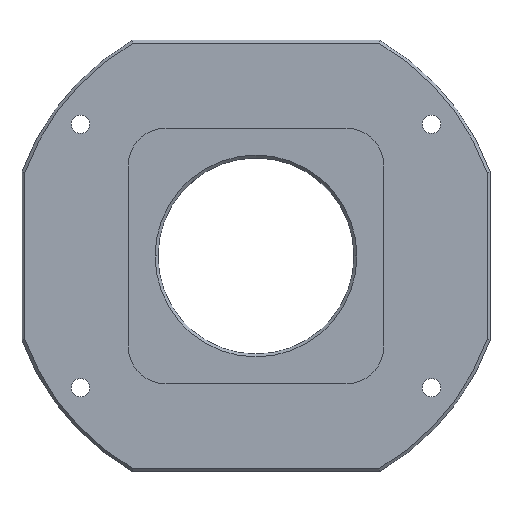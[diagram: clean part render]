
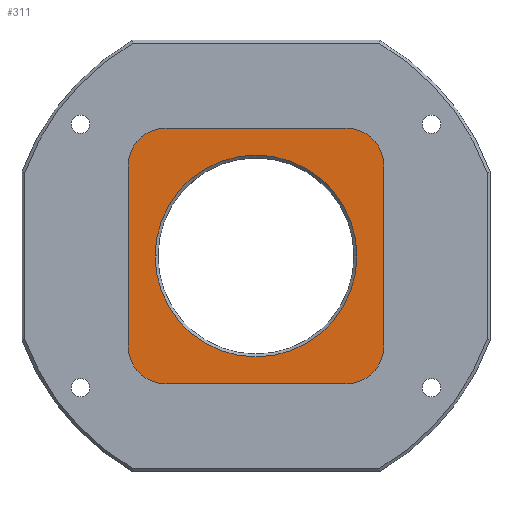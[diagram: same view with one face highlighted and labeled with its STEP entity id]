
A CAD part, top view. The second image highlights one B-rep face of the part: STEP entity #311.
In plain terms, the highlighted planar face has unit normal (0, 0, 1).
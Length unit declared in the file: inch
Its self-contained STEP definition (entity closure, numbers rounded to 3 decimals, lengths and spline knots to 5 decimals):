
#12 = DIRECTION ( 'NONE',  ( 0., 0., 1. ) ) ;
#15 = ORIENTED_EDGE ( 'NONE', *, *, #1397, .T. ) ;
#16 = CARTESIAN_POINT ( 'NONE',  ( -0.615, -0.875, -0.02 ) ) ;
#83 = CARTESIAN_POINT ( 'NONE',  ( 0., 0., -0.02 ) ) ;
#100 = ORIENTED_EDGE ( 'NONE', *, *, #1365, .T. ) ;
#103 = DIRECTION ( 'NONE',  ( -1., 0., 0. ) ) ;
#144 = ORIENTED_EDGE ( 'NONE', *, *, #1120, .T. ) ;
#152 = AXIS2_PLACEMENT_3D ( 'NONE', #1492, #1040, #103 ) ;
#168 = CARTESIAN_POINT ( 'NONE',  ( -0.615, -0.875, -0.02 ) ) ;
#182 = CIRCLE ( 'NONE', #152, 0.26 ) ;
#277 = CARTESIAN_POINT ( 'NONE',  ( -0.875, 0.615, -0.02 ) ) ;
#280 = LINE ( 'NONE', #1530, #886 ) ;
#310 = DIRECTION ( 'NONE',  ( -1., 0., 0. ) ) ;
#311 = ADVANCED_FACE ( 'NONE', ( #451, #916 ), #1069, .F. ) ;
#319 = LINE ( 'NONE', #510, #1990 ) ;
#323 = DIRECTION ( 'NONE',  ( 0., -1., 0. ) ) ;
#354 = DIRECTION ( 'NONE',  ( 0., 0., 1. ) ) ;
#378 = CARTESIAN_POINT ( 'NONE',  ( 0.69, 0., -0.02 ) ) ;
#381 = ORIENTED_EDGE ( 'NONE', *, *, #1975, .T. ) ;
#437 = DIRECTION ( 'NONE',  ( -1., 0., 0. ) ) ;
#445 = CARTESIAN_POINT ( 'NONE',  ( -0.875, -0.615, -0.02 ) ) ;
#451 = FACE_OUTER_BOUND ( 'NONE', #1688, .T. ) ;
#465 = CARTESIAN_POINT ( 'NONE',  ( -0.615, 0.875, -0.02 ) ) ;
#492 = EDGE_CURVE ( 'NONE', #722, #1577, #1398, .T. ) ;
#510 = CARTESIAN_POINT ( 'NONE',  ( 0.875, -0.615, -0.02 ) ) ;
#528 = VERTEX_POINT ( 'NONE', #378 ) ;
#554 = DIRECTION ( 'NONE',  ( -1., 0., 0. ) ) ;
#623 = AXIS2_PLACEMENT_3D ( 'NONE', #802, #12, #939 ) ;
#668 = CARTESIAN_POINT ( 'NONE',  ( -0.615, -0.615, -0.02 ) ) ;
#722 = VERTEX_POINT ( 'NONE', #445 ) ;
#758 = CARTESIAN_POINT ( 'NONE',  ( -0.615, -0.615, -0.02 ) ) ;
#786 = DIRECTION ( 'NONE',  ( 0., 0., -1. ) ) ;
#802 = CARTESIAN_POINT ( 'NONE',  ( 0.615, 0.615, -0.02 ) ) ;
#886 = VECTOR ( 'NONE', #310, 39.37008 ) ;
#916 = FACE_BOUND ( 'NONE', #1963, .T. ) ;
#939 = DIRECTION ( 'NONE',  ( -1., 0., 0. ) ) ;
#950 = LINE ( 'NONE', #1208, #1642 ) ;
#988 = AXIS2_PLACEMENT_3D ( 'NONE', #668, #354, #1914 ) ;
#1023 = DIRECTION ( 'NONE',  ( 1., 0., 0. ) ) ;
#1031 = VERTEX_POINT ( 'NONE', #1945 ) ;
#1038 = CIRCLE ( 'NONE', #1860, 0.26 ) ;
#1040 = DIRECTION ( 'NONE',  ( 0., 0., 1. ) ) ;
#1053 = CARTESIAN_POINT ( 'NONE',  ( 0.615, -0.615, -0.02 ) ) ;
#1069 = PLANE ( 'NONE',  #1497 ) ;
#1095 = ORIENTED_EDGE ( 'NONE', *, *, #1977, .T. ) ;
#1120 = EDGE_CURVE ( 'NONE', #1237, #1971, #280, .T. ) ;
#1123 = ORIENTED_EDGE ( 'NONE', *, *, #492, .T. ) ;
#1127 = CIRCLE ( 'NONE', #1475, 0.69 ) ;
#1208 = CARTESIAN_POINT ( 'NONE',  ( -0.875, -0.615, -0.02 ) ) ;
#1237 = VERTEX_POINT ( 'NONE', #1554 ) ;
#1261 = CARTESIAN_POINT ( 'NONE',  ( 0., 0., -0.02 ) ) ;
#1319 = DIRECTION ( 'NONE',  ( 0., 0., 1. ) ) ;
#1324 = DIRECTION ( 'NONE',  ( 0., 0., -1. ) ) ;
#1352 = ORIENTED_EDGE ( 'NONE', *, *, #1498, .T. ) ;
#1365 = EDGE_CURVE ( 'NONE', #1587, #1950, #319, .T. ) ;
#1379 = DIRECTION ( 'NONE',  ( 1., 0., 0. ) ) ;
#1388 = AXIS2_PLACEMENT_3D ( 'NONE', #1261, #786, #1550 ) ;
#1397 = EDGE_CURVE ( 'NONE', #528, #1031, #1127, .T. ) ;
#1398 = CIRCLE ( 'NONE', #988, 0.26 ) ;
#1415 = CIRCLE ( 'NONE', #1388, 0.69 ) ;
#1429 = DIRECTION ( 'NONE',  ( 0., 1., 0. ) ) ;
#1475 = AXIS2_PLACEMENT_3D ( 'NONE', #83, #1324, #554 ) ;
#1492 = CARTESIAN_POINT ( 'NONE',  ( -0.615, 0.615, -0.02 ) ) ;
#1497 = AXIS2_PLACEMENT_3D ( 'NONE', #758, #1635, #437 ) ;
#1498 = EDGE_CURVE ( 'NONE', #1971, #1565, #182, .T. ) ;
#1530 = CARTESIAN_POINT ( 'NONE',  ( -0.615, 0.875, -0.02 ) ) ;
#1550 = DIRECTION ( 'NONE',  ( -1., 0., 0. ) ) ;
#1554 = CARTESIAN_POINT ( 'NONE',  ( 0.615, 0.875, -0.02 ) ) ;
#1565 = VERTEX_POINT ( 'NONE', #277 ) ;
#1575 = CARTESIAN_POINT ( 'NONE',  ( 0.615, -0.875, -0.02 ) ) ;
#1577 = VERTEX_POINT ( 'NONE', #16 ) ;
#1587 = VERTEX_POINT ( 'NONE', #1974 ) ;
#1601 = ORIENTED_EDGE ( 'NONE', *, *, #1953, .T. ) ;
#1622 = EDGE_CURVE ( 'NONE', #1565, #722, #950, .T. ) ;
#1635 = DIRECTION ( 'NONE',  ( 0., 0., -1. ) ) ;
#1642 = VECTOR ( 'NONE', #323, 39.37008 ) ;
#1688 = EDGE_LOOP ( 'NONE', ( #1123, #1601, #1823, #100, #381, #144, #1352, #1888 ) ) ;
#1733 = VERTEX_POINT ( 'NONE', #1575 ) ;
#1770 = CIRCLE ( 'NONE', #623, 0.26 ) ;
#1823 = ORIENTED_EDGE ( 'NONE', *, *, #1852, .T. ) ;
#1831 = CARTESIAN_POINT ( 'NONE',  ( 0.875, 0.615, -0.02 ) ) ;
#1848 = LINE ( 'NONE', #168, #1931 ) ;
#1852 = EDGE_CURVE ( 'NONE', #1733, #1587, #1038, .T. ) ;
#1860 = AXIS2_PLACEMENT_3D ( 'NONE', #1053, #1319, #1023 ) ;
#1888 = ORIENTED_EDGE ( 'NONE', *, *, #1622, .T. ) ;
#1914 = DIRECTION ( 'NONE',  ( -1., 0., 0. ) ) ;
#1931 = VECTOR ( 'NONE', #1379, 39.37008 ) ;
#1945 = CARTESIAN_POINT ( 'NONE',  ( -0.69, 0., -0.02 ) ) ;
#1950 = VERTEX_POINT ( 'NONE', #1831 ) ;
#1953 = EDGE_CURVE ( 'NONE', #1577, #1733, #1848, .T. ) ;
#1963 = EDGE_LOOP ( 'NONE', ( #15, #1095 ) ) ;
#1971 = VERTEX_POINT ( 'NONE', #465 ) ;
#1974 = CARTESIAN_POINT ( 'NONE',  ( 0.875, -0.615, -0.02 ) ) ;
#1975 = EDGE_CURVE ( 'NONE', #1950, #1237, #1770, .T. ) ;
#1977 = EDGE_CURVE ( 'NONE', #1031, #528, #1415, .T. ) ;
#1990 = VECTOR ( 'NONE', #1429, 39.37008 ) ;
